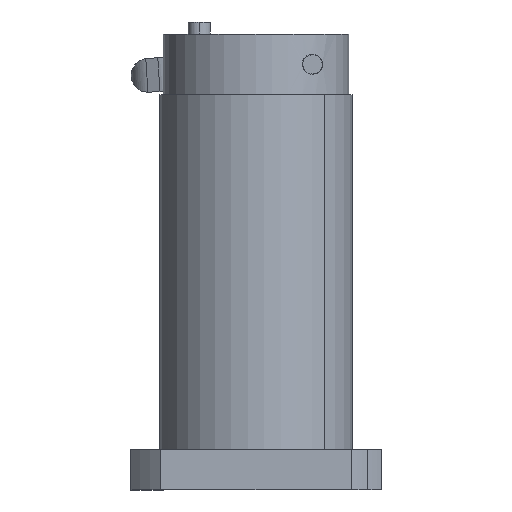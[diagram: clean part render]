
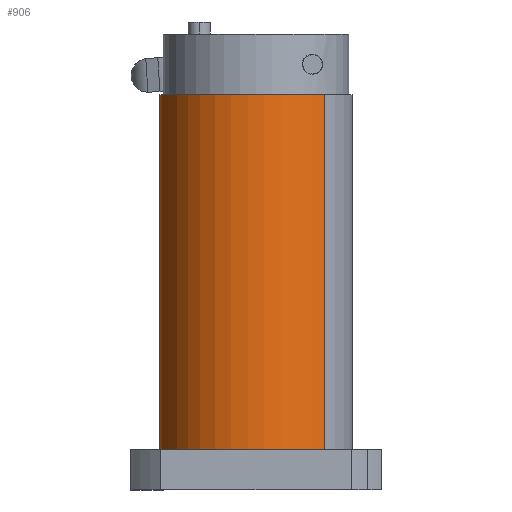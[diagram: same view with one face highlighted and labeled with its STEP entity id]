
A CAD part, left-side view. The second image highlights one B-rep face of the part: STEP entity #906.
In plain terms, the highlighted cylindrical face has radius 24 mm (diameter 48 mm), a partial arc.
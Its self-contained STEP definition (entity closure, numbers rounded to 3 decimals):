
#5 = CARTESIAN_POINT ( 'NONE',  ( -23.514, -15.229, 159.309 ) ) ;
#83 = AXIS2_PLACEMENT_3D ( 'NONE', #2669, #2722, #8435 ) ;
#136 = ORIENTED_EDGE ( 'NONE', *, *, #4409, .F. ) ;
#326 = ORIENTED_EDGE ( 'NONE', *, *, #8037, .T. ) ;
#852 = CARTESIAN_POINT ( 'NONE',  ( -23.514, -15.229, 71.309 ) ) ;
#906 = ADVANCED_FACE ( 'NONE', ( #2169 ), #1297, .T. ) ;
#924 = EDGE_CURVE ( 'NONE', #9361, #4947, #8384, .T. ) ;
#1097 = AXIS2_PLACEMENT_3D ( 'NONE', #4756, #1780, #3291 ) ;
#1137 = EDGE_LOOP ( 'NONE', ( #2128, #326, #8169, #136 ) ) ;
#1297 = CYLINDRICAL_SURFACE ( 'NONE', #83, 24. ) ;
#1380 = CARTESIAN_POINT ( 'NONE',  ( 10.427, 18.712, 115.309 ) ) ;
#1425 = EDGE_CURVE ( 'NONE', #3821, #5477, #4724, .T. ) ;
#1780 = DIRECTION ( 'NONE',  ( 0., 0., -1. ) ) ;
#2128 = ORIENTED_EDGE ( 'NONE', *, *, #924, .T. ) ;
#2169 = FACE_OUTER_BOUND ( 'NONE', #1137, .T. ) ;
#2669 = CARTESIAN_POINT ( 'NONE',  ( -6.543, 1.741, 115.309 ) ) ;
#2722 = DIRECTION ( 'NONE',  ( 0., 0., -1. ) ) ;
#2745 = DIRECTION ( 'NONE',  ( 0., 0., -1. ) ) ;
#3291 = DIRECTION ( 'NONE',  ( -0.707, -0.707, 0. ) ) ;
#3821 = VERTEX_POINT ( 'NONE', #852 ) ;
#4300 = AXIS2_PLACEMENT_3D ( 'NONE', #5704, #8585, #6360 ) ;
#4409 = EDGE_CURVE ( 'NONE', #9361, #3821, #4505, .T. ) ;
#4505 = LINE ( 'NONE', #8105, #4578 ) ;
#4522 = CARTESIAN_POINT ( 'NONE',  ( 10.427, 18.712, 71.309 ) ) ;
#4578 = VECTOR ( 'NONE', #6046, 1000. ) ;
#4724 = CIRCLE ( 'NONE', #1097, 24. ) ;
#4756 = CARTESIAN_POINT ( 'NONE',  ( -6.543, 1.741, 71.309 ) ) ;
#4947 = VERTEX_POINT ( 'NONE', #5234 ) ;
#5234 = CARTESIAN_POINT ( 'NONE',  ( 10.427, 18.712, 159.309 ) ) ;
#5477 = VERTEX_POINT ( 'NONE', #4522 ) ;
#5704 = CARTESIAN_POINT ( 'NONE',  ( -6.543, 1.741, 159.309 ) ) ;
#5735 = LINE ( 'NONE', #1380, #6291 ) ;
#6046 = DIRECTION ( 'NONE',  ( 0., 0., -1. ) ) ;
#6291 = VECTOR ( 'NONE', #2745, 1000. ) ;
#6360 = DIRECTION ( 'NONE',  ( -0.707, -0.707, 0. ) ) ;
#8037 = EDGE_CURVE ( 'NONE', #4947, #5477, #5735, .T. ) ;
#8105 = CARTESIAN_POINT ( 'NONE',  ( -23.514, -15.229, 115.309 ) ) ;
#8169 = ORIENTED_EDGE ( 'NONE', *, *, #1425, .F. ) ;
#8384 = CIRCLE ( 'NONE', #4300, 24. ) ;
#8435 = DIRECTION ( 'NONE',  ( -0.707, -0.707, 0. ) ) ;
#8585 = DIRECTION ( 'NONE',  ( 0., 0., -1. ) ) ;
#9361 = VERTEX_POINT ( 'NONE', #5 ) ;
